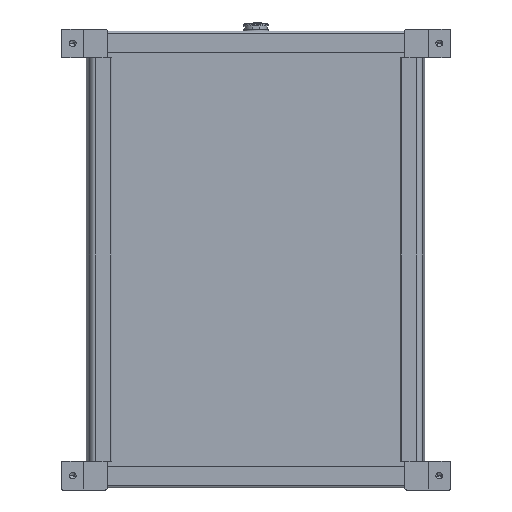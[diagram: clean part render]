
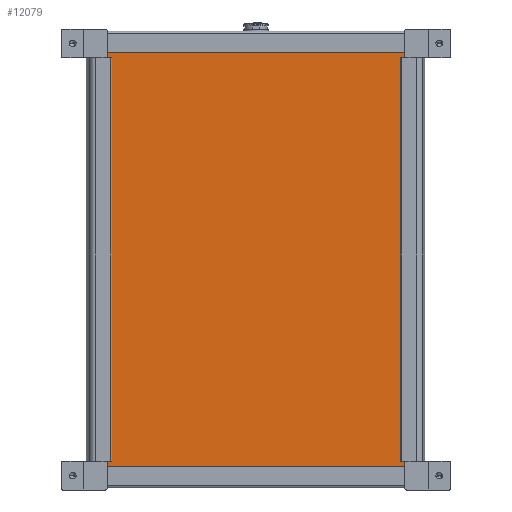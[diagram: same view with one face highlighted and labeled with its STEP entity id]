
A CAD part, front view. The second image highlights one B-rep face of the part: STEP entity #12079.
In plain terms, the highlighted planar face has unit normal (0, -1, 0).
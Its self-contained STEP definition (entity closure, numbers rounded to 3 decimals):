
#77 = ORIENTED_EDGE ( 'NONE', *, *, #2598, .T. ) ;
#149 = VERTEX_POINT ( 'NONE', #7505 ) ;
#197 = CARTESIAN_POINT ( 'NONE',  ( 164., -24., 121. ) ) ;
#198 = EDGE_CURVE ( 'NONE', #5189, #149, #11508, .T. ) ;
#713 = LINE ( 'NONE', #1561, #11476 ) ;
#793 = DIRECTION ( 'NONE',  ( 0., 0., -1. ) ) ;
#843 = CARTESIAN_POINT ( 'NONE',  ( 164., -24., -117.373 ) ) ;
#1204 = DIRECTION ( 'NONE',  ( 0., 0., -1. ) ) ;
#1213 = CARTESIAN_POINT ( 'NONE',  ( 164., -24., -117.373 ) ) ;
#1330 = ORIENTED_EDGE ( 'NONE', *, *, #12882, .F. ) ;
#1336 = LINE ( 'NONE', #2374, #10623 ) ;
#1479 = CARTESIAN_POINT ( 'NONE',  ( 164., -24., 117.373 ) ) ;
#1483 = ORIENTED_EDGE ( 'NONE', *, *, #11503, .F. ) ;
#1561 = CARTESIAN_POINT ( 'NONE',  ( -164., -24., -121. ) ) ;
#1645 = CARTESIAN_POINT ( 'NONE',  ( -168., -24., 121. ) ) ;
#1712 = CARTESIAN_POINT ( 'NONE',  ( 164., -24., 117.373 ) ) ;
#1809 = CARTESIAN_POINT ( 'NONE',  ( 164., -24., 121. ) ) ;
#1887 = VERTEX_POINT ( 'NONE', #9311 ) ;
#1900 = CARTESIAN_POINT ( 'NONE',  ( 164., -24., 121. ) ) ;
#1992 = EDGE_LOOP ( 'NONE', ( #7823, #8767, #3936, #4196, #77, #1483, #1330, #7134, #6834, #9986, #8782, #9437 ) ) ;
#2045 = EDGE_CURVE ( 'NONE', #8976, #7324, #1336, .T. ) ;
#2089 = LINE ( 'NONE', #11952, #8803 ) ;
#2374 = CARTESIAN_POINT ( 'NONE',  ( 168., -24., 121. ) ) ;
#2518 = EDGE_CURVE ( 'NONE', #9568, #3654, #6841, .T. ) ;
#2551 = DIRECTION ( 'NONE',  ( -1., 0., 0. ) ) ;
#2598 = EDGE_CURVE ( 'NONE', #1887, #4631, #713, .T. ) ;
#2834 = LINE ( 'NONE', #7060, #3834 ) ;
#2990 = LINE ( 'NONE', #5203, #4682 ) ;
#3052 = DIRECTION ( 'NONE',  ( 0., 0., -1. ) ) ;
#3074 = DIRECTION ( 'NONE',  ( 1., 0., 0. ) ) ;
#3199 = CARTESIAN_POINT ( 'NONE',  ( 164., -24., -121. ) ) ;
#3654 = VERTEX_POINT ( 'NONE', #7482 ) ;
#3716 = CARTESIAN_POINT ( 'NONE',  ( -164., -24., -117.373 ) ) ;
#3823 = DIRECTION ( 'NONE',  ( 0., 0., -1. ) ) ;
#3834 = VECTOR ( 'NONE', #5051, 1000. ) ;
#3936 = ORIENTED_EDGE ( 'NONE', *, *, #5277, .F. ) ;
#4196 = ORIENTED_EDGE ( 'NONE', *, *, #11279, .T. ) ;
#4266 = CARTESIAN_POINT ( 'NONE',  ( 168., -24., 121. ) ) ;
#4431 = VERTEX_POINT ( 'NONE', #8445 ) ;
#4631 = VERTEX_POINT ( 'NONE', #10204 ) ;
#4682 = VECTOR ( 'NONE', #3052, 1000. ) ;
#5017 = DIRECTION ( 'NONE',  ( 1., 0., 0. ) ) ;
#5051 = DIRECTION ( 'NONE',  ( 1., 0., 0. ) ) ;
#5189 = VERTEX_POINT ( 'NONE', #1479 ) ;
#5203 = CARTESIAN_POINT ( 'NONE',  ( -164., -24., 121. ) ) ;
#5245 = DIRECTION ( 'NONE',  ( -1., 0., 0. ) ) ;
#5268 = EDGE_CURVE ( 'NONE', #6314, #5189, #10754, .T. ) ;
#5277 = EDGE_CURVE ( 'NONE', #5879, #4431, #2834, .T. ) ;
#5288 = VECTOR ( 'NONE', #12680, 1000. ) ;
#5879 = VERTEX_POINT ( 'NONE', #1645 ) ;
#5922 = VECTOR ( 'NONE', #5017, 1000. ) ;
#6314 = VERTEX_POINT ( 'NONE', #6827 ) ;
#6359 = VECTOR ( 'NONE', #5245, 1000. ) ;
#6704 = EDGE_CURVE ( 'NONE', #3654, #7324, #10929, .T. ) ;
#6827 = CARTESIAN_POINT ( 'NONE',  ( 164., -24., 121. ) ) ;
#6834 = ORIENTED_EDGE ( 'NONE', *, *, #6704, .T. ) ;
#6841 = LINE ( 'NONE', #1900, #8520 ) ;
#6966 = AXIS2_PLACEMENT_3D ( 'NONE', #1712, #12628, #12497 ) ;
#7046 = EDGE_CURVE ( 'NONE', #4431, #149, #2089, .T. ) ;
#7060 = CARTESIAN_POINT ( 'NONE',  ( -164., -24., 121. ) ) ;
#7134 = ORIENTED_EDGE ( 'NONE', *, *, #2518, .T. ) ;
#7324 = VERTEX_POINT ( 'NONE', #9843 ) ;
#7441 = CARTESIAN_POINT ( 'NONE',  ( 164., -24., 117.373 ) ) ;
#7482 = CARTESIAN_POINT ( 'NONE',  ( 164., -24., -121. ) ) ;
#7505 = CARTESIAN_POINT ( 'NONE',  ( -164., -24., 117.373 ) ) ;
#7730 = DIRECTION ( 'NONE',  ( 1., 0., 0. ) ) ;
#7823 = ORIENTED_EDGE ( 'NONE', *, *, #198, .T. ) ;
#8445 = CARTESIAN_POINT ( 'NONE',  ( -164., -24., 121. ) ) ;
#8487 = PLANE ( 'NONE',  #6966 ) ;
#8520 = VECTOR ( 'NONE', #793, 1000. ) ;
#8767 = ORIENTED_EDGE ( 'NONE', *, *, #7046, .F. ) ;
#8782 = ORIENTED_EDGE ( 'NONE', *, *, #11516, .F. ) ;
#8785 = LINE ( 'NONE', #9595, #5288 ) ;
#8803 = VECTOR ( 'NONE', #9114, 1000. ) ;
#8976 = VERTEX_POINT ( 'NONE', #4266 ) ;
#9114 = DIRECTION ( 'NONE',  ( 0., 0., -1. ) ) ;
#9311 = CARTESIAN_POINT ( 'NONE',  ( -168., -24., -121. ) ) ;
#9437 = ORIENTED_EDGE ( 'NONE', *, *, #5268, .T. ) ;
#9450 = VECTOR ( 'NONE', #3823, 1000. ) ;
#9482 = FACE_OUTER_BOUND ( 'NONE', #1992, .T. ) ;
#9568 = VERTEX_POINT ( 'NONE', #843 ) ;
#9595 = CARTESIAN_POINT ( 'NONE',  ( -168., -24., 121. ) ) ;
#9843 = CARTESIAN_POINT ( 'NONE',  ( 168., -24., -121. ) ) ;
#9986 = ORIENTED_EDGE ( 'NONE', *, *, #2045, .F. ) ;
#10105 = LINE ( 'NONE', #197, #5922 ) ;
#10146 = LINE ( 'NONE', #1213, #6359 ) ;
#10204 = CARTESIAN_POINT ( 'NONE',  ( -164., -24., -121. ) ) ;
#10623 = VECTOR ( 'NONE', #1204, 1000. ) ;
#10754 = LINE ( 'NONE', #1809, #9450 ) ;
#10929 = LINE ( 'NONE', #3199, #11738 ) ;
#11197 = VECTOR ( 'NONE', #2551, 1000. ) ;
#11279 = EDGE_CURVE ( 'NONE', #5879, #1887, #8785, .T. ) ;
#11295 = VERTEX_POINT ( 'NONE', #3716 ) ;
#11476 = VECTOR ( 'NONE', #7730, 1000. ) ;
#11503 = EDGE_CURVE ( 'NONE', #11295, #4631, #2990, .T. ) ;
#11508 = LINE ( 'NONE', #7441, #11197 ) ;
#11516 = EDGE_CURVE ( 'NONE', #6314, #8976, #10105, .T. ) ;
#11738 = VECTOR ( 'NONE', #3074, 1000. ) ;
#11952 = CARTESIAN_POINT ( 'NONE',  ( -164., -24., 121. ) ) ;
#12079 = ADVANCED_FACE ( 'NONE', ( #9482 ), #8487, .F. ) ;
#12497 = DIRECTION ( 'NONE',  ( 0., 0., 1. ) ) ;
#12628 = DIRECTION ( 'NONE',  ( 0., 1., 0. ) ) ;
#12680 = DIRECTION ( 'NONE',  ( 0., 0., -1. ) ) ;
#12882 = EDGE_CURVE ( 'NONE', #9568, #11295, #10146, .T. ) ;
